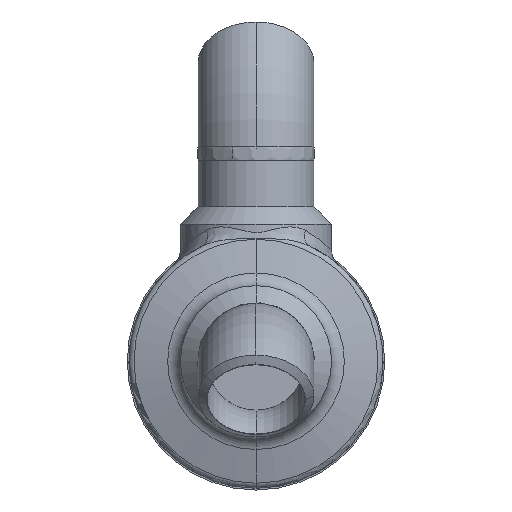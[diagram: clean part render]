
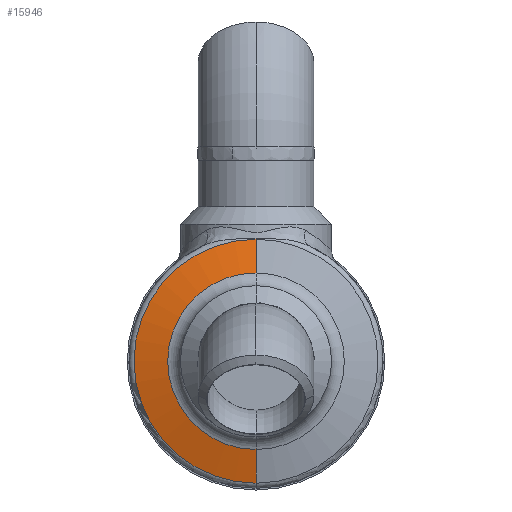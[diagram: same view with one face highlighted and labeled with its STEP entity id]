
A CAD part, front view. The second image highlights one B-rep face of the part: STEP entity #15946.
In plain terms, the highlighted conical face has half-angle 75 degrees and reference radius 37 mm.
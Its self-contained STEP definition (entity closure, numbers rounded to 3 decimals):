
#270 = ORIENTED_EDGE ( 'NONE', *, *, #12172, .T. ) ;
#304 = VERTEX_POINT ( 'NONE', #26044 ) ;
#16778 = LINE ( 'NONE', #16779, #16780 ) ;
#16779 = CARTESIAN_POINT ( 'NONE',  ( 0., -63.981, -37. ) ) ;
#16780 = VECTOR ( 'NONE', #16781, 1000. ) ;
#16781 = DIRECTION ( 'NONE',  ( 0., 0.259, -0.966 ) ) ;
#16926 = FACE_OUTER_BOUND ( 'NONE', #26538, .T. ) ;
#16927 = CONICAL_SURFACE ( 'NONE', #16928, 37., 1.309 ) ;
#16928 = AXIS2_PLACEMENT_3D ( 'NONE', #16929, #16946, #16947 ) ;
#16929 = CARTESIAN_POINT ( 'NONE',  ( 0., -63.981, 0. ) ) ;
#16946 = DIRECTION ( 'NONE',  ( 0., 1., 0. ) ) ;
#16947 = DIRECTION ( 'NONE',  ( 0., 0., 1. ) ) ;
#1630 = CARTESIAN_POINT ( 'NONE',  ( 0., -64.378, -35.518 ) ) ;
#2780 = ORIENTED_EDGE ( 'NONE', *, *, #9945, .T. ) ;
#2985 = EDGE_CURVE ( 'NONE', #10655, #304, #28724, .T. ) ;
#19762 = LINE ( 'NONE', #19763, #19764 ) ;
#19763 = CARTESIAN_POINT ( 'NONE',  ( 0., -63.981, 37. ) ) ;
#19764 = VECTOR ( 'NONE', #19765, 1000. ) ;
#19765 = DIRECTION ( 'NONE',  ( 0., 0.259, 0.966 ) ) ;
#20224 = CARTESIAN_POINT ( 'NONE',  ( 0., -67.007, -25.706 ) ) ;
#20878 = CARTESIAN_POINT ( 'NONE',  ( 0., -64.378, 35.518 ) ) ;
#20904 = CIRCLE ( 'NONE', #20905, 35.518 ) ;
#20905 = AXIS2_PLACEMENT_3D ( 'NONE', #20906, #20907, #20908 ) ;
#20906 = CARTESIAN_POINT ( 'NONE',  ( 0., -64.378, 0. ) ) ;
#20907 = DIRECTION ( 'NONE',  ( 0., -1., 0. ) ) ;
#20908 = DIRECTION ( 'NONE',  ( 0., 0., -1. ) ) ;
#7440 = ORIENTED_EDGE ( 'NONE', *, *, #2985, .T. ) ;
#7612 = ORIENTED_EDGE ( 'NONE', *, *, #29528, .F. ) ;
#26044 = CARTESIAN_POINT ( 'NONE',  ( 0., -67.007, 25.706 ) ) ;
#9945 = EDGE_CURVE ( 'NONE', #304, #12069, #19762, .T. ) ;
#26538 = EDGE_LOOP ( 'NONE', ( #7612, #7440, #2780, #270 ) ) ;
#10655 = VERTEX_POINT ( 'NONE', #20224 ) ;
#12069 = VERTEX_POINT ( 'NONE', #20878 ) ;
#12172 = EDGE_CURVE ( 'NONE', #12069, #29125, #20904, .T. ) ;
#28724 = CIRCLE ( 'NONE', #28725, 25.706 ) ;
#28725 = AXIS2_PLACEMENT_3D ( 'NONE', #28726, #28727, #28728 ) ;
#28726 = CARTESIAN_POINT ( 'NONE',  ( 0., -67.007, 0. ) ) ;
#28727 = DIRECTION ( 'NONE',  ( 0., 1., 0. ) ) ;
#28728 = DIRECTION ( 'NONE',  ( 0., 0., -1. ) ) ;
#29125 = VERTEX_POINT ( 'NONE', #1630 ) ;
#29528 = EDGE_CURVE ( 'NONE', #10655, #29125, #16778, .T. ) ;
#15946 = ADVANCED_FACE ( 'NONE', ( #16926 ), #16927, .T. ) ;
